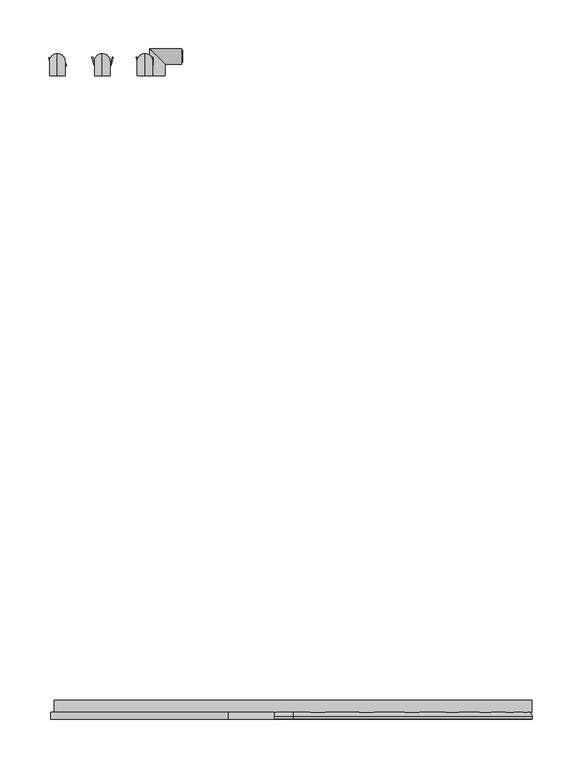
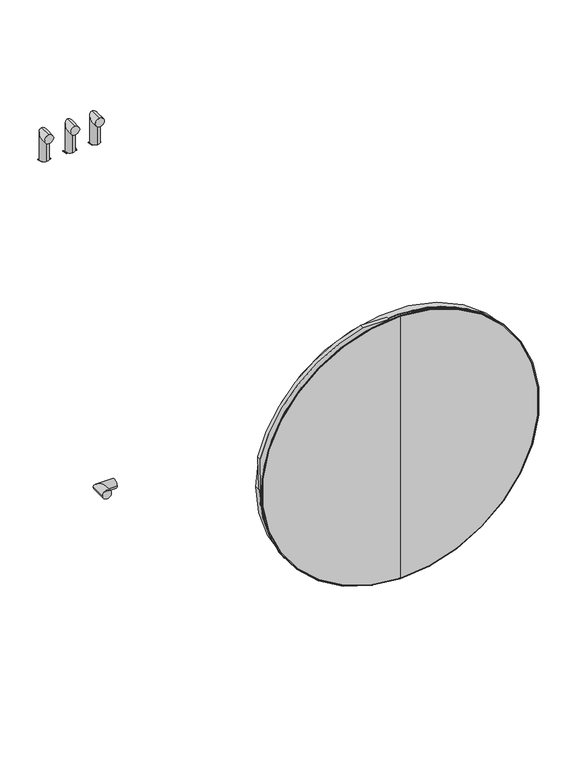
"""IFC4 building model written with IfcOpenShell, lengths in millimetres: proxy geometry, 12697800_I_WQ1200WPS_LW : 11Q12002_I_12697800_WQ1200WPS_LW."""

from ifc_helpers import new_model, si_unit, point, frame, frame_2d, origin, place, context, project, spatial, polyline, circle_curve, ellipse_curve, trimmed, segment, composite_curve, outline, extrude, source, transform, mapped, element, save
from ifc_brep_helpers import plane_surface, cylinder_surface, revolved_surface, advanced_brep


def specialty_equipment_dc7c71e7(model_context):
    return source(origin(), model_context, "Body", "SolidModel", [
        advanced_brep(
        [(-196.3759899, -32.0, 743.4000001), (-196.3759899, -32.0, 759.4000001), (-196.3759899, -25.1000366, 743.4000001), (-196.3759899, -9.1000366, 759.4000001), (-196.3759899, -25.1000366, 705.6500001), (-196.3759899, -9.1000366, 705.6500001)],
        [
            (0, 1, circle_curve(frame((-196.3759899, -32.0, 751.4000001), z_axis=(0.0, -1.0, 0.0), x_axis=(0.0, 0.0, 1.0)), 8.0)),
            (1, 0, circle_curve(frame((-196.3759899, -32.0, 751.4000001), z_axis=(0.0, -1.0, 0.0), x_axis=(0.0, 0.0, 1.0)), 8.0)),
            (0, 2),
            (2, 3, ellipse_curve(frame((-196.3759899, -17.1000366, 751.4000001), z_axis=(0.0, -0.7071067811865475, 0.7071067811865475), x_axis=(0.0, -0.7071067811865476, -0.7071067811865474)), 11.3137085, 8.0)),
            (3, 1),
            (3, 2, ellipse_curve(frame((-196.3759899, -17.1000366, 751.4000001), z_axis=(0.0, -0.7071067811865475, 0.7071067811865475), x_axis=(0.0, -0.7071067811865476, -0.7071067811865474)), 11.3137085, 8.0)),
            (4, 5, circle_curve(frame((-196.3759899, -17.1000366, 705.6500001), z_axis=(0.0, 0.0, -1.0), x_axis=(0.0, 1.0, 0.0)), 8.0)),
            (5, 4, circle_curve(frame((-196.3759899, -17.1000366, 705.6500001), z_axis=(0.0, 0.0, -1.0), x_axis=(0.0, 1.0, 0.0)), 8.0)),
            (2, 4),
            (5, 3),
        ],
        [
            plane_surface(frame((-43.9944134, -32.0, 751.4000001), z_axis=(0.0, -1.0, 0.0), x_axis=(1.0, 0.0, 0.0))),
            cylinder_surface(frame((-196.3759899, -32.0, 751.4000001), z_axis=(0.0, -1.0, 0.0), x_axis=(0.0, 0.0, 1.0)), 8.0),
            plane_surface(frame((-43.9944134, -17.1000366, 705.6500001), z_axis=(0.0, 0.0, -1.0), x_axis=(1.0, 0.0, 0.0))),
            cylinder_surface(frame((-196.3759899, -17.1000366, 751.4000001), z_axis=(0.0, 0.0, 1.0), x_axis=(0.0, 1.0, 0.0)), 8.0),
        ],
        [
            (0, [[1, 2]]),
            (1, [[-1, 3, 4, 5]]),
            (1, [[-2, -5, 6, -3]]),
            (2, [[7, 8]]),
            (3, [[-4, 9, -8, 10]]),
            (3, [[-6, -10, -7, -9]]),
        ],
    ),
        advanced_brep(
        [(-242.6687967, -32.0, 743.4000001), (-242.6687967, -32.0, 759.4000001), (-242.6687967, -25.1000366, 743.4000001), (-242.6687967, -9.1000366, 759.4000001), (-242.6687967, -25.1000366, 705.6500001), (-242.6687967, -9.1000366, 705.6500001)],
        [
            (0, 1, circle_curve(frame((-242.6687967, -32.0, 751.4000001), z_axis=(0.0, -1.0, 0.0), x_axis=(0.0, 0.0, 1.0)), 8.0)),
            (1, 0, circle_curve(frame((-242.6687967, -32.0, 751.4000001), z_axis=(0.0, -1.0, 0.0), x_axis=(0.0, 0.0, 1.0)), 8.0)),
            (0, 2),
            (2, 3, ellipse_curve(frame((-242.6687967, -17.1000366, 751.4000001), z_axis=(0.0, -0.7071067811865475, 0.7071067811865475), x_axis=(0.0, -0.7071067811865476, -0.7071067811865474)), 11.3137085, 8.0)),
            (3, 1),
            (3, 2, ellipse_curve(frame((-242.6687967, -17.1000366, 751.4000001), z_axis=(0.0, -0.7071067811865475, 0.7071067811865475), x_axis=(0.0, -0.7071067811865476, -0.7071067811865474)), 11.3137085, 8.0)),
            (4, 5, circle_curve(frame((-242.6687967, -17.1000366, 705.6500001), z_axis=(0.0, 0.0, -1.0), x_axis=(0.0, 1.0, 0.0)), 8.0)),
            (5, 4, circle_curve(frame((-242.6687967, -17.1000366, 705.6500001), z_axis=(0.0, 0.0, -1.0), x_axis=(0.0, 1.0, 0.0)), 8.0)),
            (2, 4),
            (5, 3),
        ],
        [
            plane_surface(frame((-90.2872201, -32.0, 751.4000001), z_axis=(0.0, -1.0, 0.0), x_axis=(1.0, 0.0, 0.0))),
            cylinder_surface(frame((-242.6687967, -32.0, 751.4000001), z_axis=(0.0, -1.0, 0.0), x_axis=(0.0, 0.0, 1.0)), 8.0),
            plane_surface(frame((-90.2872201, -17.1000366, 705.6500001), z_axis=(0.0, 0.0, -1.0), x_axis=(1.0, 0.0, 0.0))),
            cylinder_surface(frame((-242.6687967, -17.1000366, 751.4000001), z_axis=(0.0, 0.0, 1.0), x_axis=(0.0, 1.0, 0.0)), 8.0),
        ],
        [
            (0, [[1, 2]]),
            (1, [[-1, 3, 4, 5]]),
            (1, [[-2, -5, 6, -3]]),
            (2, [[7, 8]]),
            (3, [[-4, 9, -8, 10]]),
            (3, [[-6, -10, -7, -9]]),
        ],
    ),
        advanced_brep(
        [(-152.3815765, -32.0, 743.4000001), (-152.3815765, -32.0, 759.4000001), (-152.3815765, -25.1000366, 743.4000001), (-152.3815765, -9.1000366, 759.4000001), (-152.3815765, -25.1000366, 705.6500001), (-152.3815765, -9.1000366, 705.6500001)],
        [
            (0, 1, circle_curve(frame((-152.3815765, -32.0, 751.4000001), z_axis=(0.0, -1.0, 0.0), x_axis=(0.0, 0.0, 1.0)), 8.0)),
            (1, 0, circle_curve(frame((-152.3815765, -32.0, 751.4000001), z_axis=(0.0, -1.0, 0.0), x_axis=(0.0, 0.0, 1.0)), 8.0)),
            (0, 2),
            (2, 3, ellipse_curve(frame((-152.3815765, -17.1000366, 751.4000001), z_axis=(0.0, -0.7071067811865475, 0.7071067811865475), x_axis=(0.0, -0.7071067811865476, -0.7071067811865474)), 11.3137085, 8.0)),
            (3, 1),
            (3, 2, ellipse_curve(frame((-152.3815765, -17.1000366, 751.4000001), z_axis=(0.0, -0.7071067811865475, 0.7071067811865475), x_axis=(0.0, -0.7071067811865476, -0.7071067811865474)), 11.3137085, 8.0)),
            (4, 5, circle_curve(frame((-152.3815765, -17.1000366, 705.6500001), z_axis=(0.0, 0.0, -1.0), x_axis=(0.0, 1.0, 0.0)), 8.0)),
            (5, 4, circle_curve(frame((-152.3815765, -17.1000366, 705.6500001), z_axis=(0.0, 0.0, -1.0), x_axis=(0.0, 1.0, 0.0)), 8.0)),
            (2, 4),
            (5, 3),
        ],
        [
            plane_surface(frame((1.0055866, -32.0, 751.4000001), z_axis=(0.0, -1.0, 0.0), x_axis=(1.0, 0.0, 0.0))),
            cylinder_surface(frame((-152.3815765, -32.0, 751.4000001), z_axis=(0.0, -1.0, 0.0), x_axis=(0.0, 0.0, 1.0)), 8.0),
            plane_surface(frame((1.0055866, -17.1000366, 705.6500001), z_axis=(0.0, 0.0, -1.0), x_axis=(1.0, 0.0, 0.0))),
            cylinder_surface(frame((-152.3815765, -17.1000366, 751.4000001), z_axis=(0.0, 0.0, 1.0), x_axis=(0.0, 1.0, 0.0)), 8.0),
        ],
        [
            (0, [[1, 2]]),
            (1, [[-1, 3, 4, 5]]),
            (1, [[-2, -5, 6, -3]]),
            (2, [[7, 8]]),
            (3, [[-4, 9, -8, 10]]),
            (3, [[-6, -10, -7, -9]]),
        ],
    ),
        extrude(outline(polyline([(-152.9097049, -21.1040968), (-154.1222405, -21.1040968), (-155.8927452, -15.0877991), (-156.1974037, -14.046687), (-156.4641211, -14.9125894), (-158.3778871, -21.1172479), (-159.4530804, -21.1172479), (-161.6620355, -13.0886182), (-160.6241208, -13.0886182), (-159.3300982, -18.4119186), (-158.945656, -19.9943627), (-158.0914116, -17.0453197), (-156.9433495, -13.0772697), (-155.4502434, -13.0772697), (-153.843918, -18.5399914), (-153.4205749, -19.9810749), (-153.0320899, -18.3496828), (-151.7733961, -13.0648359), (-150.7374434, -13.0648359), (-152.9097049, -21.1040968)])), frame((0.0, 0.0, 704.6500001), z_axis=(0.0, 0.0, 1.0), x_axis=(1.0, 0.0, 0.0)), (0.0, 0.0, 1.0), 1.0),
        extrude(outline(polyline([(-144.0725682, -21.0828202), (-145.0674645, -21.0828202), (-145.0674645, -18.3226956), (-146.4290531, -17.03493), (-149.4898838, -21.0958721), (-150.7181156, -21.0958721), (-147.1429033, -16.35778), (-150.6118734, -13.0620425), (-149.2070587, -13.0620425), (-145.0773313, -16.982628), (-145.0773313, -13.0487546), (-144.0822321, -13.0487546), (-144.0725682, -21.0828202)])), frame((0.0, 0.0, 704.6500001), z_axis=(0.0, 0.0, 1.0), x_axis=(1.0, 0.0, 0.0)), (0.0, 0.0, 1.0), 1.0),
        extrude(outline(polyline([(-187.0822388, -21.0890931), (-188.2947743, -21.0890931), (-190.065279, -15.0727954), (-190.3699375, -14.0316833), (-190.6366549, -14.8975857), (-192.5504209, -21.1022442), (-193.6256143, -21.1022442), (-195.8345694, -13.0736145), (-194.7966546, -13.0736145), (-193.502632, -18.3969149), (-193.1181899, -19.979359), (-192.2639455, -17.030316), (-191.1158833, -13.062266), (-189.6227772, -13.062266), (-188.0164518, -18.5249877), (-187.5931088, -19.9660712), (-187.2046237, -18.3346791), (-185.9459299, -13.0498323), (-184.9099772, -13.0498323), (-187.0822388, -21.0890931)])), frame((0.0, 0.0, 704.6500001), z_axis=(0.0, 0.0, 1.0), x_axis=(1.0, 0.0, 0.0)), (0.0, 0.0, 1.0), 1.0),
        extrude(outline(polyline([(-198.257971, -21.1159709), (-199.4705065, -21.1159709), (-201.2410112, -15.0996731), (-201.5456697, -14.058561), (-201.8123871, -14.9244634), (-203.7261531, -21.1291219), (-204.8013465, -21.1291219), (-207.0103016, -13.1004922), (-205.9723868, -13.1004922), (-204.6783642, -18.4237926), (-204.293922, -20.0062367), (-203.4396776, -17.0571937), (-202.2916155, -13.0891438), (-200.7985094, -13.0891438), (-199.192184, -18.5518654), (-198.768841, -19.9929489), (-198.3803559, -18.3615569), (-197.1216621, -13.07671), (-196.0857094, -13.07671), (-198.257971, -21.1159709)])), frame((0.0, 0.0, 704.6500001), z_axis=(0.0, 0.0, 1.0), x_axis=(1.0, 0.0, 0.0)), (0.0, 0.0, 1.0), 1.0),
        extrude(outline(polyline([(-233.1563624, -21.4455598), (-234.2158595, -21.4455598), (-235.1401302, -18.9389157), (-238.4520396, -18.9389157), (-239.3642305, -21.4604898), (-240.4256896, -21.4604898), (-237.2390577, -13.4188506), (-236.3836119, -13.4188506), (-233.1563624, -21.4455598)]), holes=[polyline([(-235.5114082, -17.9383405), (-236.3033498, -15.7887102), (-236.8069568, -14.4223774), (-237.3663557, -15.9639265), (-238.0875557, -17.9414383), (-235.5114082, -17.9383405)])]), frame((0.0, 0.0, 704.6500001), z_axis=(0.0, 0.0, 1.0), x_axis=(1.0, 0.0, 0.0)), (0.0, 0.0, 1.0), 1.0),
        extrude(outline(polyline([(-242.9370901, -21.4690825), (-244.1496257, -21.4690825), (-245.9201304, -15.4527848), (-246.2247889, -14.4116727), (-246.4915063, -15.2775751), (-248.4052723, -21.4822335), (-249.4804656, -21.4822335), (-251.6894207, -13.4536039), (-250.651506, -13.4536039), (-249.3574833, -18.7769043), (-248.9730412, -20.3593484), (-248.1187968, -17.4103054), (-246.9707346, -13.4422554), (-245.4776286, -13.4422554), (-243.8713031, -18.9049771), (-243.4479601, -20.3460605), (-243.059475, -18.7146685), (-241.8007813, -13.4298216), (-240.7648286, -13.4298216), (-242.9370901, -21.4690825)])), frame((0.0, 0.0, 704.6500001), z_axis=(0.0, 0.0, 1.0), x_axis=(1.0, 0.0, 0.0)), (0.0, 0.0, 1.0), 1.0),
        advanced_brep(
        [(-131.7000084, -32.0, 47.1000009), (-147.7000084, -32.0, 47.1000009), (-131.7000084, -20.0, 47.1000009), (-147.7000084, -4.0, 47.1000009), (-114.7000084, -20.0, 47.1000009), (-114.7000084, -4.0, 47.1000009)],
        [
            (0, 1, circle_curve(frame((-139.7000084, -32.0, 47.1000009), z_axis=(0.0, -1.0, 0.0), x_axis=(-1.0, 0.0, 0.0)), 8.0)),
            (1, 0, circle_curve(frame((-139.7000084, -32.0, 47.1000009), z_axis=(0.0, -1.0, 0.0), x_axis=(-1.0, 0.0, 0.0)), 8.0)),
            (0, 2),
            (2, 3, ellipse_curve(frame((-139.7000084, -12.0, 47.1000009), z_axis=(-0.7071067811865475, -0.7071067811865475, 0.0), x_axis=(0.7071067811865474, -0.7071067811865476, 0.0)), 11.3137085, 8.0)),
            (3, 1),
            (3, 2, ellipse_curve(frame((-139.7000084, -12.0, 47.1000009), z_axis=(-0.7071067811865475, -0.7071067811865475, 0.0), x_axis=(0.7071067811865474, -0.7071067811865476, 0.0)), 11.3137085, 8.0)),
            (4, 5, circle_curve(frame((-114.7000084, -12.0, 47.1000009), z_axis=(1.0, 0.0, 0.0), x_axis=(0.0, 1.0, 0.0)), 8.0)),
            (5, 4, circle_curve(frame((-114.7000084, -12.0, 47.1000009), z_axis=(1.0, 0.0, 0.0), x_axis=(0.0, 1.0, 0.0)), 8.0)),
            (2, 4),
            (5, 3),
        ],
        [
            plane_surface(frame((-139.7000084, -32.0, 0.0), z_axis=(0.0, -1.0, 0.0), x_axis=(0.0, 0.0, 1.0))),
            cylinder_surface(frame((-139.7000084, -32.0, 47.1000009), z_axis=(0.0, -1.0, 0.0), x_axis=(-1.0, 0.0, 0.0)), 8.0),
            plane_surface(frame((-114.7000084, -12.0, 0.0), z_axis=(1.0, 0.0, 0.0), x_axis=(0.0, 0.0, 1.0))),
            cylinder_surface(frame((-139.7000084, -12.0, 47.1000009), z_axis=(-1.0, 0.0, 0.0), x_axis=(0.0, 1.0, 0.0)), 8.0),
        ],
        [
            (0, [[1, 2]]),
            (1, [[-1, 3, 4, 5]]),
            (1, [[-2, -5, 6, -3]]),
            (2, [[7, 8]]),
            (3, [[-4, 9, -8, 10]]),
            (3, [[-6, -10, -7, -9]]),
        ],
    ),
        extrude(outline(polyline([(-17.9018082, 43.3236689), (-17.9018082, 51.3601737), (-12.1255704, 51.3601737), (-12.1255704, 50.3556106), (-16.8972451, 50.3556106), (-16.8972451, 47.9697732), (-12.3767112, 47.9697732), (-12.3767112, 46.9652101), (-16.8972451, 46.9652101), (-16.8972451, 44.328232), (-12.0, 44.328232), (-12.0, 43.3236689), (-17.9018082, 43.3236689)])), frame((-114.7000084, 0.0, 0.0), z_axis=(1.0, 0.0, 0.0), x_axis=(0.0, 1.0, 0.0)), (0.0, 0.0, 1.0), 1.0),
        extrude(outline(polyline([(-10.4931553, 43.3236689), (-10.4931553, 51.3601737), (-9.4885922, 51.3601737), (-9.4885922, 44.328232), (-5.4703398, 44.328232), (-5.4703398, 43.3236689), (-10.4931553, 43.3236689)])), frame((-114.7000084, 0.0, 0.0), z_axis=(1.0, 0.0, 0.0), x_axis=(0.0, 1.0, 0.0)), (0.0, 0.0, 1.0), 1.0),
        advanced_brep(
        [(0.0, -686.9368516, 242.8085926), (0.0, -686.9368516, 734.7979489), (0.0, -686.9368516, 488.8032707), (0.0, -691.1398077, 240.937316), (0.0, -691.1398077, 736.6692255), (0.0, -693.4778464, 240.937316), (0.0, -693.4778464, 736.6692255), (0.0, -693.9547882, 241.6184595), (0.0, -693.9547882, 735.988082), (0.0, -694.2692986, 242.7032384), (0.0, -694.2692986, 734.9033031), (0.0, -694.2692986, 488.8032707)],
        [
            (0, 1, circle_curve(frame((0.0, -686.9368516, 488.8032707), z_axis=(0.0, 1.0, 0.0), x_axis=(0.0, 0.0, 1.0)), 245.9946781)),
            (1, 2),
            (2, 0),
            (1, 0, circle_curve(frame((0.0, -686.9368516, 488.8032707), z_axis=(0.0, 1.0, 0.0), x_axis=(0.0, 0.0, 1.0)), 245.9946781)),
            (3, 4, circle_curve(frame((0.0, -691.1398077, 488.8032707), z_axis=(0.0, 1.0, 0.0), x_axis=(0.0, 0.0, 1.0)), 247.8659547)),
            (4, 1),
            (0, 3),
            (4, 3, circle_curve(frame((0.0, -691.1398077, 488.8032707), z_axis=(0.0, 1.0, 0.0), x_axis=(0.0, 0.0, 1.0)), 247.8659547)),
            (5, 6, circle_curve(frame((0.0, -693.4778464, 488.8032707), z_axis=(0.0, 1.0, 0.0), x_axis=(0.0, 0.0, 1.0)), 247.8659547)),
            (6, 4),
            (3, 5),
            (6, 5, circle_curve(frame((0.0, -693.4778464, 488.8032707), z_axis=(0.0, 1.0, 0.0), x_axis=(0.0, 0.0, 1.0)), 247.8659547)),
            (7, 8, circle_curve(frame((0.0, -693.9547882, 488.8032707), z_axis=(0.0, 1.0, 0.0), x_axis=(0.0, 0.0, 1.0)), 247.1848113)),
            (8, 6),
            (5, 7),
            (8, 7, circle_curve(frame((0.0, -693.9547882, 488.8032707), z_axis=(0.0, 1.0, 0.0), x_axis=(0.0, 0.0, 1.0)), 247.1848113)),
            (9, 10, circle_curve(frame((0.0, -694.2692986, 488.8032707), z_axis=(0.0, 1.0, 0.0), x_axis=(0.0, 0.0, 1.0)), 246.1000324)),
            (10, 8),
            (7, 9),
            (10, 9, circle_curve(frame((0.0, -694.2692986, 488.8032707), z_axis=(0.0, 1.0, 0.0), x_axis=(0.0, 0.0, 1.0)), 246.1000324)),
            (11, 10),
            (9, 11),
        ],
        [
            plane_surface(frame((0.0, -686.9368516, 488.8032707), z_axis=(0.0, 1.0, 0.0), x_axis=(0.0, 0.0, 1.0))),
            revolved_surface(polyline([(0.0, -686.9368516, 734.7979489), (0.0, -691.1398077, 736.6692255)]), (0.0, -682.7754395, 488.8032707), (0.0, -1.0, 0.0)),
            cylinder_surface(frame((0.0, -682.7754395, 488.8032707), z_axis=(0.0, -1.0, 0.0), x_axis=(0.0, 0.0, 1.0)), 247.8659547),
            revolved_surface(polyline([(0.0, -693.4778464, 736.6692255), (0.0, -693.9547882, 735.988082)]), (0.0, -682.7754395, 488.8032707), (0.0, -1.0, 0.0)),
            revolved_surface(polyline([(0.0, -693.9547882, 735.988082), (0.0, -694.2692986, 734.9033031)]), (0.0, -682.7754395, 488.8032707), (0.0, -1.0, 0.0)),
            plane_surface(frame((0.0, -694.2692986, 488.8032707), z_axis=(0.0, -1.0, 0.0), x_axis=(0.0, 0.0, 1.0))),
        ],
        [
            (0, [[1, 2, 3]]),
            (0, [[4, -3, -2]]),
            (1, [[5, 6, -1, 7]]),
            (1, [[8, -7, -4, -6]]),
            (2, [[9, 10, -5, 11]]),
            (2, [[12, -11, -8, -10]]),
            (3, [[13, 14, -9, 15]]),
            (3, [[16, -15, -12, -14]]),
            (4, [[17, 18, -13, 19]]),
            (4, [[20, -19, -16, -18]]),
            (5, [[21, -17, 22]]),
            (5, [[-22, -20, -21]]),
        ],
    ),
        extrude(outline(composite_curve([segment(trimmed(circle_curve(frame_2d((488.8032707, 0.0)), 246.0), [point((488.8032707, -246.0))], [point((488.8032707, 246.0))], False, "CARTESIAN"), True, "CONTINUOUS"), segment(trimmed(circle_curve(frame_2d((488.8032707, 0.0)), 246.0), [point((488.8032707, 246.0))], [point((488.8032707, -246.0))], False, "CARTESIAN"), True, "CONTINUOUS")], self_intersect=False), holes=[composite_curve([segment(trimmed(circle_curve(frame_2d((488.8032707, 0.0)), 165.0), [point((488.8032707, 165.0))], [point((488.8032707, -165.0))], True, "CARTESIAN"), True, "CONTINUOUS"), segment(trimmed(circle_curve(frame_2d((488.8032707, 0.0)), 165.0), [point((488.8032707, -165.0))], [point((488.8032707, 165.0))], True, "CARTESIAN"), True, "CONTINUOUS")], self_intersect=False)]), frame((0.0, -687.119297, 0.0), z_axis=(0.0, 1.0, 0.0), x_axis=(0.0, 0.0, 1.0)), (0.0, 0.0, 1.0), 12.5192604),
        extrude(outline(composite_curve([segment(trimmed(circle_curve(frame_2d((488.8032707, 0.0)), 248.0), [point((492.7669893, -247.9683224))], [point((736.0239029, -19.6458396))], True, "CARTESIAN"), True, "CONTINUOUS"), segment(polyline([(736.0239029, -19.6458396), (736.6692255, -66.444722)]), True, "CONTINUOUS"), segment(trimmed(circle_curve(frame_2d((489.8279561, -2.4573191)), 255.0), [point((736.6692255, -66.444722))], [point((553.8153591, -249.2985884))], False, "CARTESIAN"), True, "CONTINUOUS"), segment(polyline([(553.8153591, -249.2985884), (492.7669893, -247.9683224)]), True, "CONTINUOUS")], self_intersect=False)), frame((0.0, -694.2692986, 0.0), z_axis=(0.0, 1.0, 0.0), x_axis=(0.0, 0.0, 1.0)), (0.0, 0.0, 1.0), 7.1500015),
    ])


if __name__ == "__main__":
    model = new_model("IFC4")
    model_context = context("Model", 3, world=origin())
    ifc_project = project(units=[si_unit("LENGTHUNIT", "METRE", prefix="MILLI")], contexts=[model_context])
    site = spatial("IfcSite", under=ifc_project)
    building = spatial("IfcBuilding", under=site)
    placement = place(None, origin())
    specialty_equipment_shape = specialty_equipment_dc7c71e7(model_context)
    element("IfcBuildingElementProxy", 1, Name="12697800_I_WQ1200WPS_LW : 11Q12002_I_12697800_WQ1200WPS_LW", ObjectType="12697800_I_WQ1200WPS_LW : 11Q12002_I_12697800_WQ1200WPS_LW", at=placement, inside=building, context=model_context, shape_type="MappedRepresentation", body=[
        mapped(specialty_equipment_shape, transform((0.0, 0.0, 0.0), x_axis=(1.0, 0.0, 0.0), y_axis=(0.0, 1.0, 0.0), z_axis=(0.0, 0.0, 1.0))),
    ])
    save(model, "model.ifc")
